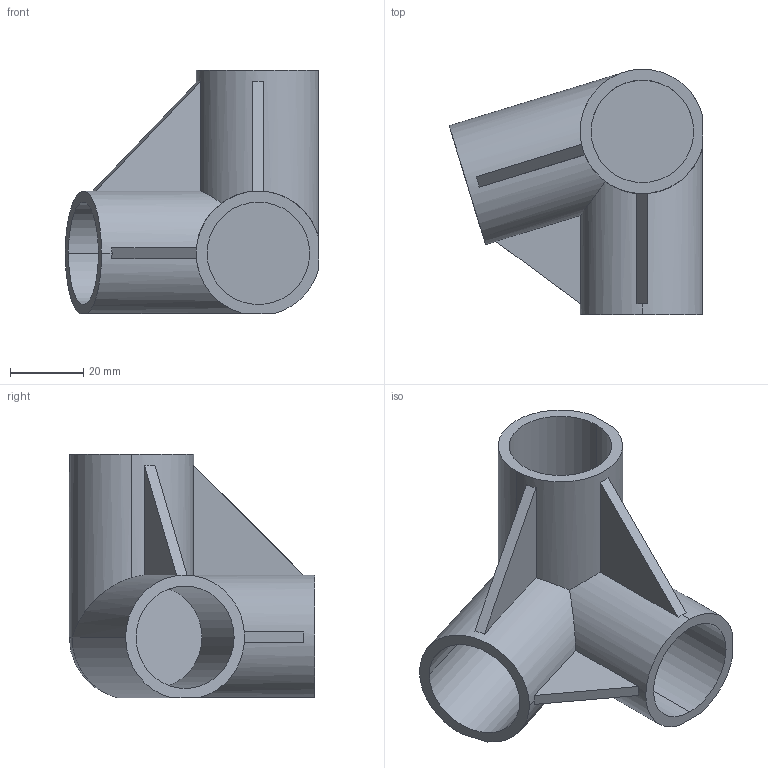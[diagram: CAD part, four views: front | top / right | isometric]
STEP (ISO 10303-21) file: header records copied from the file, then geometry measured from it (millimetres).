
FILE_DESCRIPTION (( 'STEP AP214' ), '1' );
FILE_NAME ('PJ-400.STEP', '2023-09-12T11:08:13', ( 'catia' ), ( 'HP Inc.' ), 'SwSTEP 2.0', 'SolidWorks 2021', '' );
FILE_SCHEMA (( 'AUTOMOTIVE_DESIGN' ));
Length unit declared in the file: millimetre
Products named in the file (1): PJ-400
Bounding box: 69.29 x 67 x 66.5 mm (x, y, z)
Volume: 68391.5 mm3; surface area: 26132.3 mm2
Topology: 1 solids, 1 shells, 32 faces, 82 edges, 54 vertices
Faces by surface type: plane 17, cylinder 14, sphere 1
Entity records: 995 total; most frequent: CARTESIAN_POINT 211, ORIENTED_EDGE 160, DIRECTION 156, EDGE_CURVE 80, AXIS2_PLACEMENT_3D 58, VERTEX_POINT 53, VECTOR 40, LINE 40
